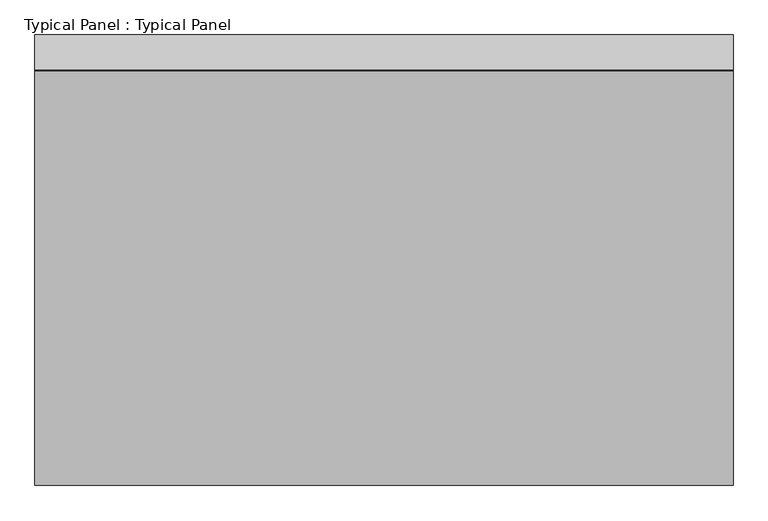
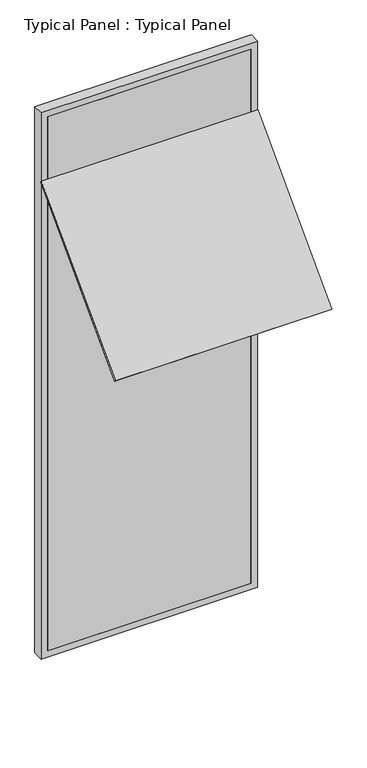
"""IFC4 building model written with IfcOpenShell, lengths in millimetres: plate geometry, Typical Panel : Typical Panel."""

from ifc_helpers import new_model, si_unit, frame, origin, place, context, project, spatial, polyline, outline, extrude, source, transform, mapped, element, save


def typical_panel_typical_panel_c6367479(model_context):
    return source(origin(), model_context, "Body", "SweptSolid", [
        extrude(outline(polyline([(0.0, -10.0), (0.0, 0.0), (1500.0, 0.0), (1500.0, -10.0), (0.0, -10.0)])), frame((750.0, -894.1627142, 2579.2450556), z_axis=(0.0, 0.6946583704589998, 0.7193398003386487), x_axis=(-1.0, 0.0, 0.0)), (0.0, 0.0, 1.0), 1280.0),
        extrude(outline(polyline([(0.0, -750.0), (0.0, 750.0), (4000.0, 750.0), (4000.0, -750.0), (0.0, -750.0)]), holes=[polyline([(45.0, 705.0), (45.0, -705.0), (3955.0, -705.0), (3955.0, 705.0), (45.0, 705.0)])]), frame((0.0, -1.5797986, 0.0), z_axis=(0.0, 1.0, 0.0), x_axis=(0.0, 0.0, 1.0)), (0.0, 0.0, 1.0), 75.0),
        extrude(outline(polyline([(705.0, -1.5797986), (-705.0, -1.5797986), (-705.0, 13.4202014), (705.0, 13.4202014), (705.0, -1.5797986)])), frame((0.0, 0.0, 45.0), z_axis=(0.0, 0.0, 1.0), x_axis=(1.0, 0.0, 0.0)), (0.0, 0.0, 1.0), 3910.0),
    ])


if __name__ == "__main__":
    model = new_model("IFC4")
    model_context = context("Model", 3, world=origin())
    ifc_project = project(units=[si_unit("LENGTHUNIT", "METRE", prefix="MILLI")], contexts=[model_context])
    site = spatial("IfcSite", under=ifc_project)
    building = spatial("IfcBuilding", under=site)
    placement = place(None, origin())
    typical_panel_typical_panel_shape = typical_panel_typical_panel_c6367479(model_context)
    element("IfcPlate", 1, ObjectType="Typical Panel : Typical Panel", at=placement, inside=building, context=model_context, shape_type="MappedRepresentation", body=[
        mapped(typical_panel_typical_panel_shape, transform((0.0, 0.0, 0.0), x_axis=(1.0, 0.0, 0.0), y_axis=(0.0, 1.0, 0.0), z_axis=(0.0, 0.0, 1.0))),
    ])
    save(model, "model.ifc")
